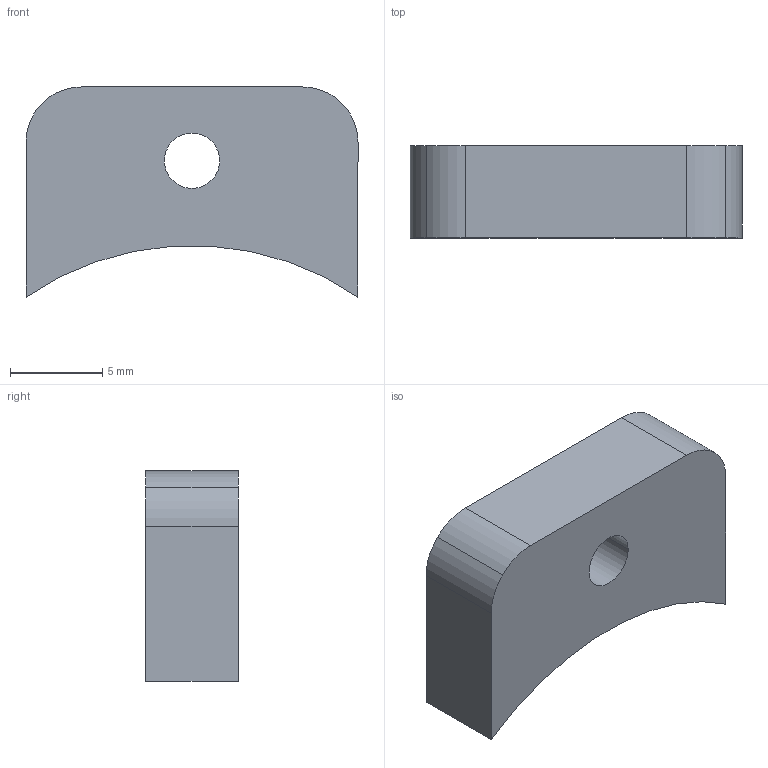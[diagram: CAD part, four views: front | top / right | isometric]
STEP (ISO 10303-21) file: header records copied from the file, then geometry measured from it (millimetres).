
FILE_DESCRIPTION(('STEP AP214'),'1');
FILE_NAME('tmp0.step','2025-04-08T20:15:26',(' '),(' '),'Spatial InterOp 3D',' ',' ');
FILE_SCHEMA(('AUTOMOTIVE_DESIGN { 1 0 10303 214 1 1 1 1 }'));
Length unit declared in the file: millimetre
Products named in the file (1): Thickness Data
Bounding box: 18 x 5 x 11.39 mm (x, y, z)
Volume: 799.5 mm3; surface area: 653.5 mm2
Topology: 1 solids, 1 shells, 12 faces, 30 edges, 20 vertices
Faces by surface type: cylinder 7, plane 5
Entity records: 397 total; most frequent: DIRECTION 70, CARTESIAN_POINT 63, ORIENTED_EDGE 60, EDGE_CURVE 30, AXIS2_PLACEMENT_3D 27, VERTEX_POINT 20, LINE 16, VECTOR 16
